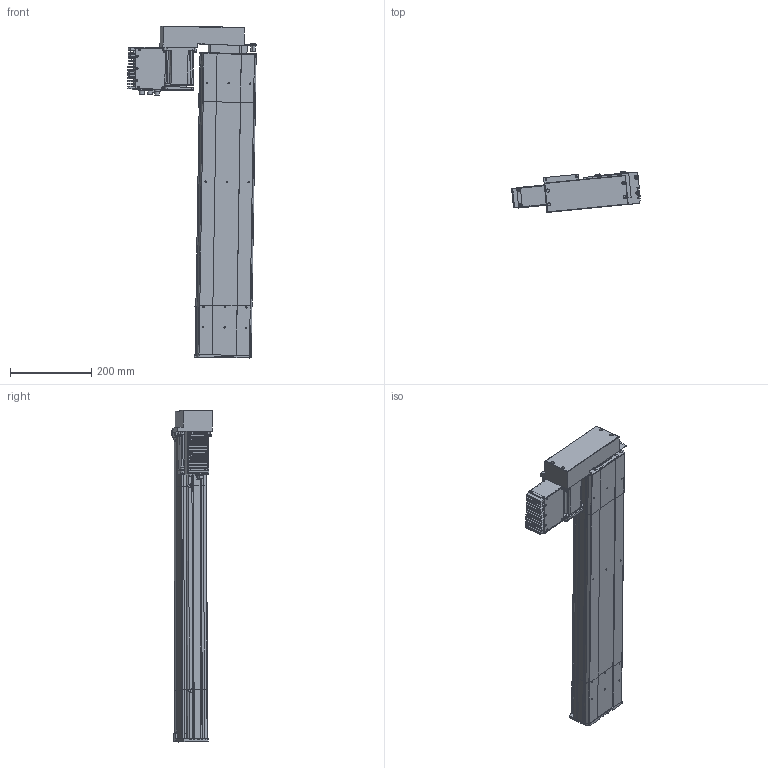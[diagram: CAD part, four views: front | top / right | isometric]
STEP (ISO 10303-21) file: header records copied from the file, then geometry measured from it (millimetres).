
FILE_DESCRIPTION (( 'STEP AP203' ), '1' );
FILE_NAME ('D14 TSH M4 BR L10 S600.STEP', '2012-10-10T13:53:57', ( '' ), ( '' ), 'SwSTEP 2.0', 'SolidWorks 2010', '' );
FILE_SCHEMA (( 'CONFIG_CONTROL_DESIGN' ));
Products named in the file (27): corpl tail D14_Default_2; Connecteur rond D10 3cts_2; Tôle Arrière_2; Couvercle_2; Radiateur_2; Vis TF 3 torkx_2; Embout raccord d14; plaque de maintient D14; Vis CHC M8; D14 TSH M4 BR L10 S600; corp head D14_Default_2; plaque de  bout head D14 MD_Default_2; Moteur_2; T犨e contre le moteur_2; Sub D 9cts_2; T犨e fond_2; Tôle latérale_2; Connecteur rond D12 4cts_2; Moteur 70BLDC90A_2; Colonnette_2; plaque de  bout tail D14_Default_2; couvercle D14 head_Default_2; Pièce502; Pièce500; vis CHC M7; plaque de bout head d14 BR; vis CHC M5.5
Assembly tree (59 placements, depth 3):
  D14 TSH M4 BR L10 S600
    Pièce500
    plaque de  bout tail D14_Default_2
    corp head D14_Default_2
    plaque de  bout head D14 MD_Default_2
    couvercle D14 head_Default_2  x2
    Embout raccord d14
      vis CHC M7  x2
      plaque de bout head d14 BR
      vis CHC M5.5  x4
      plaque de maintient D14
      Vis CHC M8  x2
    corpl tail D14_Default_2
    Moteur_2
      Vis TF 3 torkx_2  x26
      Connecteur rond D10 3cts_2  x2
      T犨e contre le moteur_2
      Connecteur rond D12 4cts_2
      Radiateur_2
      Tôle Arrière_2
      Tôle latérale_2  x2
      Sub D 9cts_2
      Moteur 70BLDC90A_2
      T犨e fond_2
      Couvercle_2
      Colonnette_2
    Pièce502
Bounding box: 316.32 x 100.45 x 815.87 mm (x, y, z)
Volume: 3432710.7 mm3; surface area: 1022072.6 mm2
Topology: 79 solids, 79 shells, 2575 faces, 6652 edges, 4377 vertices
Faces by surface type: plane 1388, cylinder 891, cone 150, bspline 130, torus 16
Entity records: 67439 total; most frequent: CARTESIAN_POINT 21211, ORIENTED_EDGE 8882, DIRECTION 8584, EDGE_CURVE 4441, LINE 2952, VECTOR 2952, VERTEX_POINT 2931, AXIS2_PLACEMENT_3D 2816
